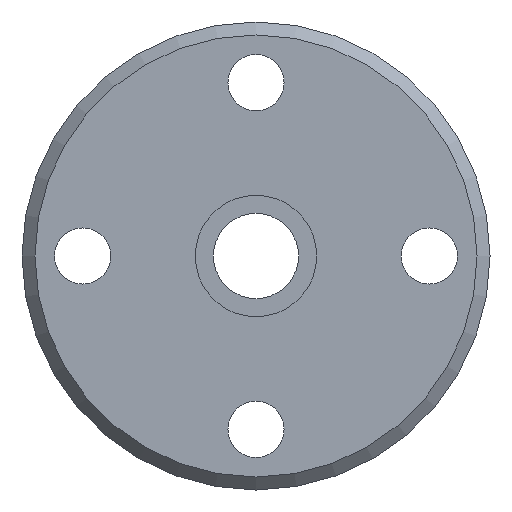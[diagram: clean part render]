
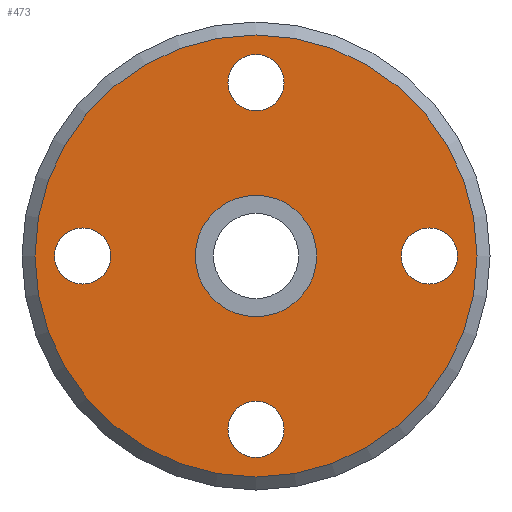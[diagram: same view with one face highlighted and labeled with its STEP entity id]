
A CAD part, front view. The second image highlights one B-rep face of the part: STEP entity #473.
In plain terms, the highlighted planar face has unit normal (0, -1, 0).
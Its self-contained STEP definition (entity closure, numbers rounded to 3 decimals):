
#70=CARTESIAN_POINT('',(-13.413,-5.495,10.0));
#71=VERTEX_POINT('',#70);
#72=CARTESIAN_POINT('',(-11.792,-5.495,10.0));
#73=DIRECTION('',(0.0,1.0,0.0));
#74=DIRECTION('',(1.0,0.0,0.0));
#75=AXIS2_PLACEMENT_3D('',#72,#73,#74);
#76=CIRCLE('',#75,1.621);
#77=EDGE_CURVE('',#71,#71,#76,.T.);
#119=CARTESIAN_POINT('',(-13.413,-5.495,-10.0));
#120=VERTEX_POINT('',#119);
#121=CARTESIAN_POINT('',(-11.792,-5.495,-10.0));
#122=DIRECTION('',(0.0,1.0,0.0));
#123=DIRECTION('',(1.0,0.0,0.0));
#124=AXIS2_PLACEMENT_3D('',#121,#122,#123);
#125=CIRCLE('',#124,1.621);
#126=EDGE_CURVE('',#120,#120,#125,.T.);
#168=CARTESIAN_POINT('',(-23.413,-5.495,0.));
#169=VERTEX_POINT('',#168);
#170=CARTESIAN_POINT('',(-21.792,-5.495,0.));
#171=DIRECTION('',(0.0,1.0,0.0));
#172=DIRECTION('',(1.0,0.0,0.0));
#173=AXIS2_PLACEMENT_3D('',#170,#171,#172);
#174=CIRCLE('',#173,1.621);
#175=EDGE_CURVE('',#169,#169,#174,.T.);
#217=CARTESIAN_POINT('',(-3.413,-5.495,0.));
#218=VERTEX_POINT('',#217);
#219=CARTESIAN_POINT('',(-1.792,-5.495,0.));
#220=DIRECTION('',(0.0,1.0,0.0));
#221=DIRECTION('',(1.0,0.0,0.0));
#222=AXIS2_PLACEMENT_3D('',#219,#220,#221);
#223=CIRCLE('',#222,1.621);
#224=EDGE_CURVE('',#218,#218,#223,.T.);
#294=CARTESIAN_POINT('',(-8.292,-5.495,0.0));
#295=VERTEX_POINT('',#294);
#296=CARTESIAN_POINT('',(-11.792,-5.495,0.0));
#297=DIRECTION('',(0.0,1.0,0.0));
#298=DIRECTION('',(1.0,0.0,0.0));
#299=AXIS2_PLACEMENT_3D('',#296,#297,#298);
#300=CIRCLE('',#299,3.5);
#301=EDGE_CURVE('',#295,#295,#300,.T.);
#442=CARTESIAN_POINT('',(-18.167,-5.495,0.0));
#443=DIRECTION('',(0.0,-1.0,0.0));
#444=DIRECTION('',(0.0,0.0,-1.0));
#445=AXIS2_PLACEMENT_3D('',#442,#443,#444);
#446=PLANE('',#445);
#447=CARTESIAN_POINT('',(-24.542,-5.495,0.0));
#448=VERTEX_POINT('',#447);
#449=CARTESIAN_POINT('',(-11.792,-5.495,0.0));
#450=DIRECTION('',(0.0,1.0,0.0));
#451=DIRECTION('',(-1.0,0.0,0.0));
#452=AXIS2_PLACEMENT_3D('',#449,#450,#451);
#453=CIRCLE('',#452,12.75);
#454=EDGE_CURVE('',#448,#448,#453,.T.);
#455=ORIENTED_EDGE('',*,*,#454,.F.);
#456=EDGE_LOOP('',(#455));
#457=FACE_OUTER_BOUND('',#456,.T.);
#458=ORIENTED_EDGE('',*,*,#77,.T.);
#459=EDGE_LOOP('',(#458));
#460=FACE_BOUND('',#459,.T.);
#461=ORIENTED_EDGE('',*,*,#126,.T.);
#462=EDGE_LOOP('',(#461));
#463=FACE_BOUND('',#462,.T.);
#464=ORIENTED_EDGE('',*,*,#175,.T.);
#465=EDGE_LOOP('',(#464));
#466=FACE_BOUND('',#465,.T.);
#467=ORIENTED_EDGE('',*,*,#224,.T.);
#468=EDGE_LOOP('',(#467));
#469=FACE_BOUND('',#468,.T.);
#470=ORIENTED_EDGE('',*,*,#301,.T.);
#471=EDGE_LOOP('',(#470));
#472=FACE_BOUND('',#471,.T.);
#473=ADVANCED_FACE('',(#457,#460,#463,#466,#469,#472),#446,.T.);
